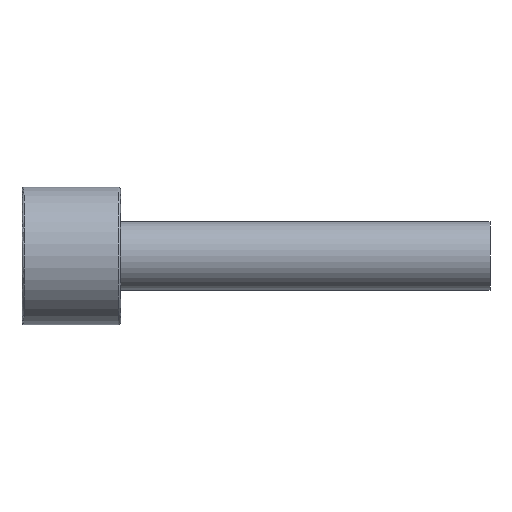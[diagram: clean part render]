
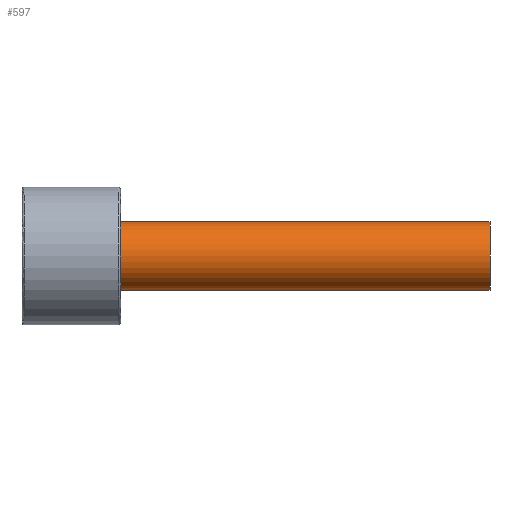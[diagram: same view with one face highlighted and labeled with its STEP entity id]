
A CAD part, front view. The second image highlights one B-rep face of the part: STEP entity #597.
In plain terms, the highlighted cylindrical face has radius 7 mm (diameter 14 mm), a partial arc.
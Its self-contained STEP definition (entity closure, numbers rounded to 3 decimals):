
#431=CARTESIAN_POINT('Vertex',(95.,0.,7.)) ;
#434=CARTESIAN_POINT('Axis2P3D Location',(95.,0.,0.)) ;
#438=CARTESIAN_POINT('Vertex',(95.,-7.,0.)) ;
#441=CARTESIAN_POINT('Axis2P3D Location',(95.,0.,0.)) ;
#445=CARTESIAN_POINT('Vertex',(95.,0.,-7.)) ;
#537=CARTESIAN_POINT('Line Origine',(95.,0.,7.)) ;
#541=CARTESIAN_POINT('Vertex',(20.,0.,7.)) ;
#544=CARTESIAN_POINT('Line Origine',(95.,0.,-7.)) ;
#548=CARTESIAN_POINT('Vertex',(20.,0.,-7.)) ;
#572=CARTESIAN_POINT('Axis2P3D Location',(95.,0.,0.)) ;
#577=CARTESIAN_POINT('Axis2P3D Location',(20.,0.,0.)) ;
#581=CARTESIAN_POINT('Vertex',(20.,-7.,0.)) ;
#584=CARTESIAN_POINT('Axis2P3D Location',(20.,0.,0.)) ;
#435=DIRECTION('Axis2P3D Direction',(1.,0.,-0.)) ;
#442=DIRECTION('Axis2P3D Direction',(1.,0.,-0.)) ;
#538=DIRECTION('Vector Direction',(-1.,0.,0.)) ;
#545=DIRECTION('Vector Direction',(-1.,0.,0.)) ;
#573=DIRECTION('Axis2P3D Direction',(-1.,-0.,-0.)) ;
#574=DIRECTION('Axis2P3D XDirection',(0.,0.,-1.)) ;
#578=DIRECTION('Axis2P3D Direction',(-1.,-0.,-0.)) ;
#585=DIRECTION('Axis2P3D Direction',(-1.,-0.,-0.)) ;
#436=AXIS2_PLACEMENT_3D('Circle Axis2P3D',#434,#435,$) ;
#443=AXIS2_PLACEMENT_3D('Circle Axis2P3D',#441,#442,$) ;
#575=AXIS2_PLACEMENT_3D('Cylinder Axis2P3D',#572,#573,#574) ;
#579=AXIS2_PLACEMENT_3D('Circle Axis2P3D',#577,#578,$) ;
#586=AXIS2_PLACEMENT_3D('Circle Axis2P3D',#584,#585,$) ;
#590=ORIENTED_EDGE('',*,*,#550,.T.) ;
#591=ORIENTED_EDGE('',*,*,#447,.F.) ;
#592=ORIENTED_EDGE('',*,*,#440,.F.) ;
#593=ORIENTED_EDGE('',*,*,#543,.T.) ;
#594=ORIENTED_EDGE('',*,*,#583,.T.) ;
#595=ORIENTED_EDGE('',*,*,#588,.T.) ;
#539=VECTOR('Line Direction',#538,1.) ;
#546=VECTOR('Line Direction',#545,1.) ;
#597=ADVANCED_FACE('367F-14X95',(#596),#576,.T.) ;
#437=CIRCLE('generated circle',#436,7.) ;
#444=CIRCLE('generated circle',#443,7.) ;
#580=CIRCLE('generated circle',#579,7.) ;
#587=CIRCLE('generated circle',#586,7.) ;
#576=CYLINDRICAL_SURFACE('generated cylinder',#575,7.) ;
#440=EDGE_CURVE('',#432,#439,#437,.T.) ;
#447=EDGE_CURVE('',#439,#446,#444,.T.) ;
#543=EDGE_CURVE('',#432,#542,#540,.T.) ;
#550=EDGE_CURVE('',#549,#446,#547,.F.) ;
#583=EDGE_CURVE('',#542,#582,#580,.F.) ;
#588=EDGE_CURVE('',#582,#549,#587,.F.) ;
#589=EDGE_LOOP('',(#590,#591,#592,#593,#594,#595)) ;
#596=FACE_OUTER_BOUND('',#589,.T.) ;
#540=LINE('Line',#537,#539) ;
#547=LINE('Line',#544,#546) ;
#432=VERTEX_POINT('',#431) ;
#439=VERTEX_POINT('',#438) ;
#446=VERTEX_POINT('',#445) ;
#542=VERTEX_POINT('',#541) ;
#549=VERTEX_POINT('',#548) ;
#582=VERTEX_POINT('',#581) ;
